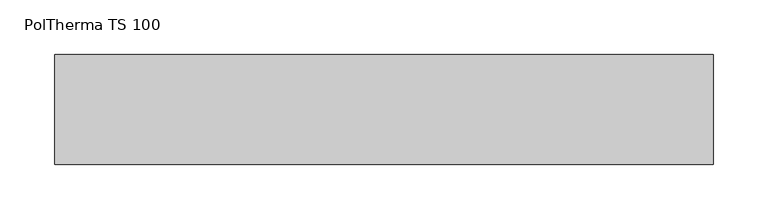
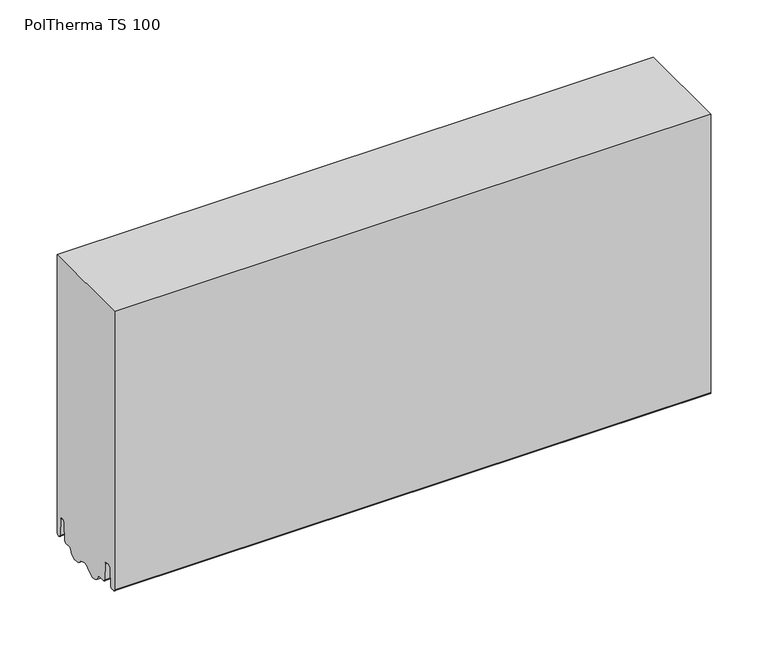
"""IFC4 building model written with IfcOpenShell, lengths in millimetres: plate geometry, Europanels_Poltherma TS_Hz : PolTherma TS 100."""

import ifcopenshell
import ifcopenshell.guid

model = None  # the IFC model being written
_history = None  # IfcOwnerHistory: only IFC2X3 demands one
_inside = {}  # id of a spatial element -> (the spatial element, [elements in it])
_under = {}  # id of a project, library or spatial element -> (it, [spatial elements below it])
_declared = {}  # id of a project -> (the project, [libraries it declares])
_typed = {}  # id of a type object -> (the type object, [elements of that type])
_made_of = {}  # id of a material, layer set ... -> (it, [elements and type objects made of it])


def new_model(schema):
    """Start an empty IFC model of exactly this schema.

    Asked for "IFC4X3", IfcOpenShell would pick the latest addendum, in which some entities
    have other attributes; the version numbers below select the first issue.
    IFC2X3 requires an IfcOwnerHistory on every rooted entity: one is made here for all.
    """
    global model, _history
    if schema == "IFC4X3":
        model = ifcopenshell.file(schema_version=(4, 3, 0, 0))
    else:
        model = ifcopenshell.file(schema=schema)
    _inside.clear()
    _under.clear()
    _declared.clear()
    _typed.clear()
    _made_of.clear()
    _history = None
    if model.schema == "IFC2X3":
        org = make("IfcOrganization", Name="unknown")
        user = make(
            "IfcPersonAndOrganization",
            ThePerson=make("IfcPerson", FamilyName="unknown"),
            TheOrganization=org,
        )
        app = make(
            "IfcApplication",
            ApplicationDeveloper=org,
            Version="unknown",
            ApplicationFullName="unknown",
            ApplicationIdentifier="unknown",
        )
        _history = make(
            "IfcOwnerHistory",
            OwningUser=user,
            OwningApplication=app,
            ChangeAction="ADDED",
            CreationDate=0,
        )
    return model


def make(cls, **values):
    """One entity of the class cls with the attributes given. An attribute that is None is left unset."""
    return model.create_entity(
        cls, **{name: value for name, value in values.items() if value is not None}
    )


def rooted(cls, **values):
    """An entity with a GlobalId (a new one), such as an element, a storey or a relation."""
    return make(cls, GlobalId=ifcopenshell.guid.new(), OwnerHistory=_history, **values)


def si_unit(unit_type, name, prefix=None):
    """IfcSIUnit, for example si_unit("LENGTHUNIT", "METRE", prefix="MILLI")."""
    return make("IfcSIUnit", UnitType=unit_type, Prefix=prefix, Name=name)


def assignment(units):
    """IfcUnitAssignment: the units of a project."""
    return None if units is None else make("IfcUnitAssignment", Units=units)


def point(xyz):
    """IfcCartesianPoint."""
    return None if xyz is None else make("IfcCartesianPoint", Coordinates=xyz)


def direction(xyz):
    """IfcDirection."""
    return None if xyz is None else make("IfcDirection", DirectionRatios=xyz)


def frame(location, z_axis=None, x_axis=None):
    """IfcAxis2Placement3D, a coordinate frame: its origin and axes. An axis left out is left unset."""
    return make(
        "IfcAxis2Placement3D",
        Location=point(location),
        Axis=direction(z_axis),
        RefDirection=direction(x_axis),
    )


def frame_2d(location, x_axis=None):
    """IfcAxis2Placement2D, a coordinate frame in the plane: its origin and x axis."""
    return make(
        "IfcAxis2Placement2D", Location=point(location), RefDirection=direction(x_axis)
    )


def origin():
    """The frame at (0, 0, 0) with its axes left unset."""
    return frame((0.0, 0.0, 0.0))


def place(relative_to, where):
    """IfcLocalPlacement: puts the frame where relative to a parent placement (None: the world)."""
    return make(
        "IfcLocalPlacement", PlacementRelTo=relative_to, RelativePlacement=where
    )


def context(
    kind, dimensions, precision=None, world=None, true_north=None, identifier=None
):
    """IfcGeometricRepresentationContext, for example the 3D "Model" context."""
    return make(
        "IfcGeometricRepresentationContext",
        ContextIdentifier=identifier,
        ContextType=kind,
        CoordinateSpaceDimension=dimensions,
        Precision=precision,
        WorldCoordinateSystem=world,
        TrueNorth=true_north,
    )


def project(units=None, contexts=None):
    """IfcProject with its units and contexts."""
    return rooted(
        "IfcProject",
        Name="project",
        RepresentationContexts=contexts,
        UnitsInContext=assignment(units),
    )


def spatial(cls, under=None, at=None, **own):
    """A site, building, storey or space (cls), placed at a placement, below another one or the project."""
    s = rooted(cls, ObjectPlacement=at, **own)
    if under is not None:
        _under.setdefault(under.id(), (under, []))[1].append(s)
    return s


def polyline(points):
    """IfcPolyline through the points."""
    return make("IfcPolyline", Points=[point(p) for p in points])


def circle_curve(where, radius):
    """IfcCircle in the frame where."""
    return make("IfcCircle", Position=where, Radius=radius)


def trimmed(basis, trim1, trim2, sense, master):
    """IfcTrimmedCurve: the piece of a basis curve between two trims."""
    return make(
        "IfcTrimmedCurve",
        BasisCurve=basis,
        Trim1=trim1,
        Trim2=trim2,
        SenseAgreement=sense,
        MasterRepresentation=master,
    )


def segment(curve, same_sense, transition):
    """IfcCompositeCurveSegment."""
    return make(
        "IfcCompositeCurveSegment",
        Transition=transition,
        SameSense=same_sense,
        ParentCurve=curve,
    )


def composite_curve(segments, self_intersect=None):
    """IfcCompositeCurve: segments joined end to end."""
    return make("IfcCompositeCurve", Segments=segments, SelfIntersect=self_intersect)


def outline(outer, holes=None, kind="AREA"):
    """IfcArbitraryClosedProfileDef: a profile drawn as a closed curve; with holes, ...WithVoids."""
    if holes is None:
        return make("IfcArbitraryClosedProfileDef", ProfileType=kind, OuterCurve=outer)
    return make(
        "IfcArbitraryProfileDefWithVoids",
        ProfileType=kind,
        OuterCurve=outer,
        InnerCurves=holes,
    )


def extrude(swept, where, along, depth):
    """IfcExtrudedAreaSolid: the profile swept, set in the frame where, extruded along a direction by depth."""
    return make(
        "IfcExtrudedAreaSolid",
        SweptArea=swept,
        Position=where,
        ExtrudedDirection=direction(along),
        Depth=depth,
    )


def shape(context_of_items, identifier, shape_type, items):
    """IfcShapeRepresentation: the items that make up one representation, for example the "Body"."""
    return make(
        "IfcShapeRepresentation",
        ContextOfItems=context_of_items,
        RepresentationIdentifier=identifier,
        RepresentationType=shape_type,
        Items=items,
    )


def source(mapping_origin, context_of_items, identifier, shape_type, items):
    """IfcRepresentationMap: a shape defined once, which mapped items show again and again."""
    return make(
        "IfcRepresentationMap",
        MappingOrigin=mapping_origin,
        MappedRepresentation=shape(context_of_items, identifier, shape_type, items),
    )


def transform(
    local_origin,
    x_axis=None,
    y_axis=None,
    z_axis=None,
    scale=None,
    scale2=None,
    scale3=None,
    uniform=True,
):
    """IfcCartesianTransformationOperator3D, or its non-uniform kind. x_axis, y_axis, z_axis: its Axis1, 2, 3."""
    if uniform:
        return make(
            "IfcCartesianTransformationOperator3D",
            Axis1=direction(x_axis),
            Axis2=direction(y_axis),
            LocalOrigin=point(local_origin),
            Scale=scale,
            Axis3=direction(z_axis),
        )
    return make(
        "IfcCartesianTransformationOperator3DnonUniform",
        Axis1=direction(x_axis),
        Axis2=direction(y_axis),
        LocalOrigin=point(local_origin),
        Scale=scale,
        Axis3=direction(z_axis),
        Scale2=scale2,
        Scale3=scale3,
    )


def mapped(mapping_source, mapping_target):
    """IfcMappedItem: shows the shape of a source again, moved by a transform."""
    return make(
        "IfcMappedItem", MappingSource=mapping_source, MappingTarget=mapping_target
    )


def made_of(thing, what):
    """Note that an element or type object is made of a material, layer set ...; save() writes the relation."""
    if what is not None:
        _made_of.setdefault(what.id(), (what, []))[1].append(thing)
    return thing


def element(
    cls,
    number,
    at=None,
    inside=None,
    cuts=None,
    type_object=None,
    material=None,
    context=None,
    identifier="Body",
    shape_type=None,
    held_by="IfcProductDefinitionShape",
    body=None,
    shapes=None,
    **own,
):
    """One element of the class cls, such as IfcWall. Its Tag is "e" and its number.

    at: its placement. inside: the storey or other place that contains it. cuts: it is an
    opening in that element (IfcRelVoidsElement). A single representation is given by context,
    identifier, shape_type and body (its items); several are given by shapes. held_by: the class
    of the entity that holds the representations. save() writes the other relations.
    """
    e = rooted(cls, Tag="e%d" % number, ObjectPlacement=at, **own)
    if body is not None:
        shapes = [shape(context, identifier, shape_type, body)]
    if shapes is not None:
        e.Representation = make(held_by, Representations=shapes)
    if inside is not None:
        _inside.setdefault(inside.id(), (inside, []))[1].append(e)
    if cuts is not None:
        rooted(
            "IfcRelVoidsElement", RelatingBuildingElement=cuts, RelatedOpeningElement=e
        )
    if type_object is not None:
        _typed.setdefault(type_object.id(), (type_object, []))[1].append(e)
    return made_of(e, material)


def aggregate(whole, parts):
    """IfcRelAggregates: a whole, such as a stair, and the parts it consists of."""
    return rooted("IfcRelAggregates", RelatingObject=whole, RelatedObjects=parts)


def save(model, path):
    """Write the relations noted so far, then the file.

    IfcRelAggregates (storeys below a building ...), IfcRelContainedInSpatialStructure (elements
    in a storey), IfcRelDefinesByType, IfcRelAssociatesMaterial and IfcRelDeclares: one each for
    every whole, place, type object, material and project.
    """
    for whole, parts in _under.values():
        aggregate(whole, parts)
    for where, things in _inside.values():
        rooted(
            "IfcRelContainedInSpatialStructure",
            RelatedElements=things,
            RelatingStructure=where,
        )
    for kind, things in _typed.values():
        rooted("IfcRelDefinesByType", RelatedObjects=things, RelatingType=kind)
    for what, things in _made_of.values():
        rooted("IfcRelAssociatesMaterial", RelatedObjects=things, RelatingMaterial=what)
    for by, libraries in _declared.values():
        rooted("IfcRelDeclares", RelatingContext=by, RelatedDefinitions=libraries)
    model.write(path)


def poltherma_ts_100_3a0a2318(model_context):
    return source(origin(), model_context, "Body", "SweptSolid", [
        extrude(outline(composite_curve([segment(polyline([(-50.0, 300.0), (50.0, 300.0), (50.0, 3.8418901)]), True, "CONTINUOUS"), segment(trimmed(circle_curve(frame_2d((47.632528, 3.8418901)), 2.367472), [point((50.0, 3.8418901))], [point((45.2685131, 3.7139946))], False, "CARTESIAN"), True, "CONTINUOUS"), segment(polyline([(45.2685131, 3.7139946), (44.3287441, 21.084649)]), True, "CONTINUOUS"), segment(trimmed(circle_curve(frame_2d((41.0497127, 20.9072503)), 3.2838266), [point((44.3287441, 21.084649))], [point((37.7713293, 21.0962469))], True, "CARTESIAN"), True, "CONTINUOUS"), segment(polyline([(37.7713293, 21.0962469), (36.7366349, 3.1481762)]), True, "CONTINUOUS"), segment(trimmed(circle_curve(frame_2d((34.9895357, 3.2488953)), 1.75), [point((36.7366349, 3.1481762))], [point((34.9895357, 1.4988953))], False, "CARTESIAN"), True, "CONTINUOUS"), segment(polyline([(34.9895357, 1.4988953), (27.5267156, 1.4988953)]), True, "CONTINUOUS"), segment(trimmed(circle_curve(frame_2d((17.7, 3.3524487)), 10.0), [point((27.5267156, 1.4988953))], [point((10.2, -3.2619295))], False, "CARTESIAN"), True, "CONTINUOUS"), segment(trimmed(circle_curve(frame_2d((2.7, -9.8763078)), 10.0), [point((10.2, -3.2619295))], [point((-4.8, -3.2619295))], True, "CARTESIAN"), True, "CONTINUOUS"), segment(trimmed(circle_curve(frame_2d((-12.3, 3.3524487)), 10.0), [point((-4.8, -3.2619295))], [point((-22.1267156, 1.4988953))], False, "CARTESIAN"), True, "CONTINUOUS"), segment(polyline([(-22.1267156, 1.4988953), (-30.5507777, 1.4988953)]), True, "CONTINUOUS"), segment(trimmed(circle_curve(frame_2d((-30.5507777, 3.2988953)), 1.8), [point((-30.5507777, 1.4988953))], [point((-32.3477941, 3.1952985))], False, "CARTESIAN"), True, "CONTINUOUS"), segment(polyline([(-32.3477941, 3.1952985), (-33.3842966, 21.1747334)]), True, "CONTINUOUS"), segment(trimmed(circle_curve(frame_2d((-36.3793238, 21.0020721)), 3.0), [point((-33.3842966, 21.1747334))], [point((-36.3793238, 24.0020721))], True, "CARTESIAN"), True, "CONTINUOUS"), segment(polyline([(-36.3793238, 24.0020721), (-39.3209015, 24.0020721)]), True, "CONTINUOUS"), segment(trimmed(circle_curve(frame_2d((-39.3209015, 21.0020721)), 3.0), [point((-39.3209015, 24.0020721))], [point((-42.3165207, 21.1641379))], True, "CARTESIAN"), True, "CONTINUOUS"), segment(polyline([(-42.3165207, 21.1641379), (-43.2780726, 3.3908514)]), True, "CONTINUOUS"), segment(trimmed(circle_curve(frame_2d((-45.2751521, 3.4988953)), 2.0), [point((-43.2780726, 3.3908514))], [point((-45.2751521, 1.4988953))], False, "CARTESIAN"), True, "CONTINUOUS"), segment(polyline([(-45.2751521, 1.4988953), (-48.0, 1.4988953)]), True, "CONTINUOUS"), segment(trimmed(circle_curve(frame_2d((-48.0, 3.4988953)), 2.0), [point((-48.0, 1.4988953))], [point((-50.0, 3.4988953))], False, "CARTESIAN"), True, "CONTINUOUS"), segment(polyline([(-50.0, 3.4988953), (-50.0, 300.0)]), True, "CONTINUOUS")], self_intersect=False)), frame((-300.0, 0.0, 0.0), z_axis=(1.0, 0.0, 0.0), x_axis=(0.0, 1.0, 0.0)), (0.0, 0.0, 1.0), 600.0),
    ])


if __name__ == "__main__":
    model = new_model("IFC4")
    model_context = context("Model", 3, world=origin())
    ifc_project = project(units=[si_unit("LENGTHUNIT", "METRE", prefix="MILLI")], contexts=[model_context])
    site = spatial("IfcSite", under=ifc_project)
    building = spatial("IfcBuilding", under=site)
    placement = place(None, origin())
    poltherma_ts_100_shape = poltherma_ts_100_3a0a2318(model_context)
    element("IfcPlate", 1, ObjectType="Europanels_Poltherma TS_Hz : PolTherma TS 100", at=placement, inside=building, context=model_context, shape_type="MappedRepresentation", body=[
        mapped(poltherma_ts_100_shape, transform((0.0, 0.0, 0.0), x_axis=(1.0, 0.0, 0.0), y_axis=(0.0, 1.0, 0.0), z_axis=(0.0, 0.0, 1.0))),
    ])
    save(model, "model.ifc")
